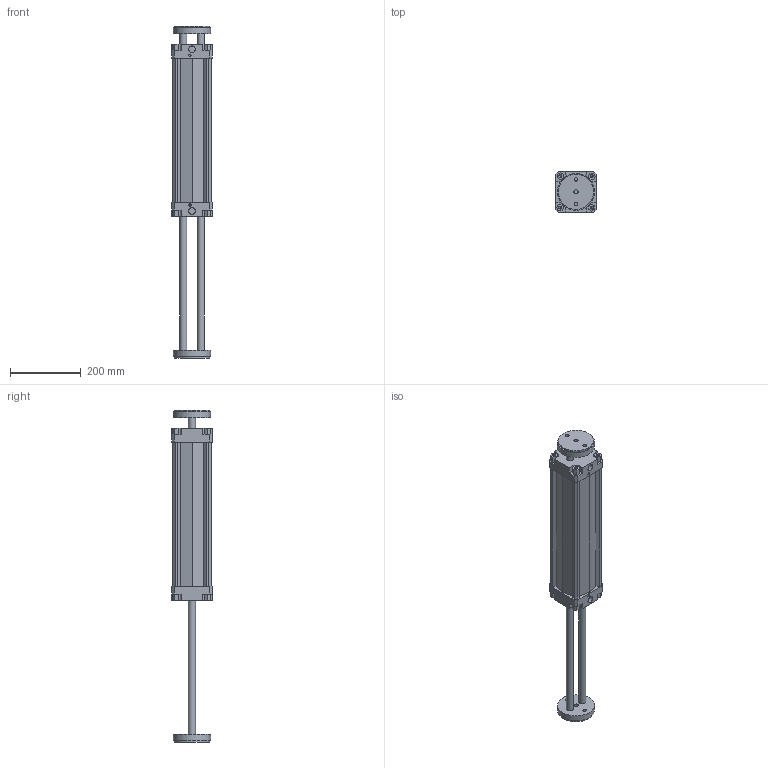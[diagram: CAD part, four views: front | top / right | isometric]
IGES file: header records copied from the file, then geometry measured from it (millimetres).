
Global section: file name: 132#_100_0350_06; native system: Autodesk Inventor 2014; preprocessor: unknown; author: A. Manieri; date: 20161006.163755; units: millimetre
Bounding box: 115 x 115 x 940 mm (x, y, z)
Volume: 3277269 mm3; surface area: 606641 mm2
Topology: 2 solids, 2 shells, 190 faces, 518 edges, 354 vertices
Faces by surface type: bspline 190
